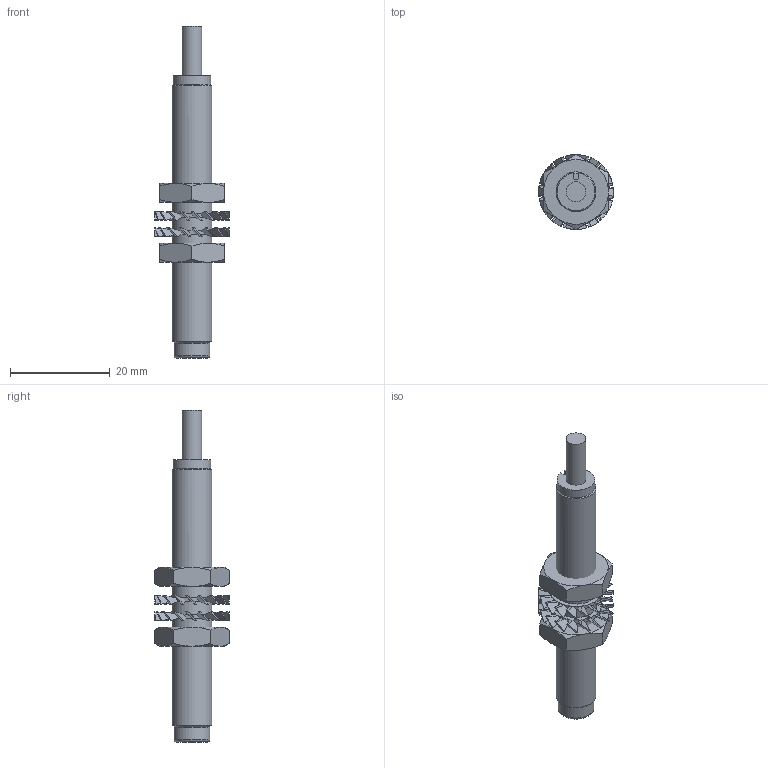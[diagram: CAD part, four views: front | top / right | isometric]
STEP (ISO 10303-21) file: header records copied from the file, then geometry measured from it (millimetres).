
FILE_DESCRIPTION(/* description */ (''),/* implementation_level */ '2;1');
FILE_NAME(/* name */ 'L:\CAD Inventor\Workspace\Catalogs\SENSORS-3D\Ni-G08-X.stp',/* time_stamp */ '2022-07-15T11:31:13-05:00',/* author */ ('RSwans'),/* organization */ (''),/* preprocessor_version */ 'ST-DEVELOPER v16.5',/* originating_system */ 'Autodesk Inventor 2017',/* authorisation */ '');
FILE_SCHEMA (('AUTOMOTIVE_DESIGN { 1 0 10303 214 3 1 1 }'));
Length unit declared in the file: millimetre
Products named in the file (1): Part1
Bounding box: 15 x 15.01 x 66.6 mm (x, y, z)
Volume: 3747.8 mm3; surface area: 2749.1 mm2
Topology: 3 solids, 3 shells, 282 faces, 786 edges, 515 vertices
Faces by surface type: plane 134, cone 102, cylinder 45, torus 1
Full cylindrical faces by diameter (mm): 4 x1, 7.2 x1, 8 x3, 8.4 x2
Entity records: 9176 total; most frequent: CARTESIAN_POINT 1802, ORIENTED_EDGE 1532, DIRECTION 1474, EDGE_CURVE 766, AXIS2_PLACEMENT_3D 547, VERTEX_POINT 509, LINE 380, VECTOR 380
